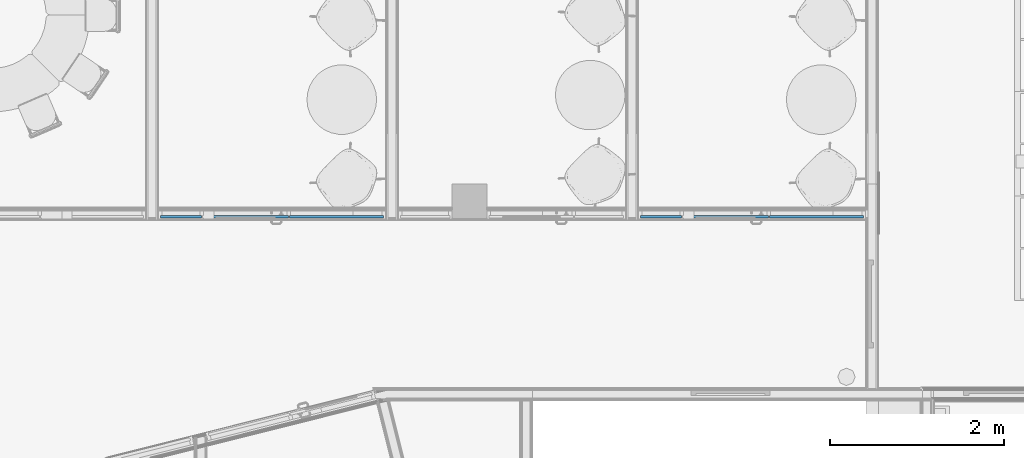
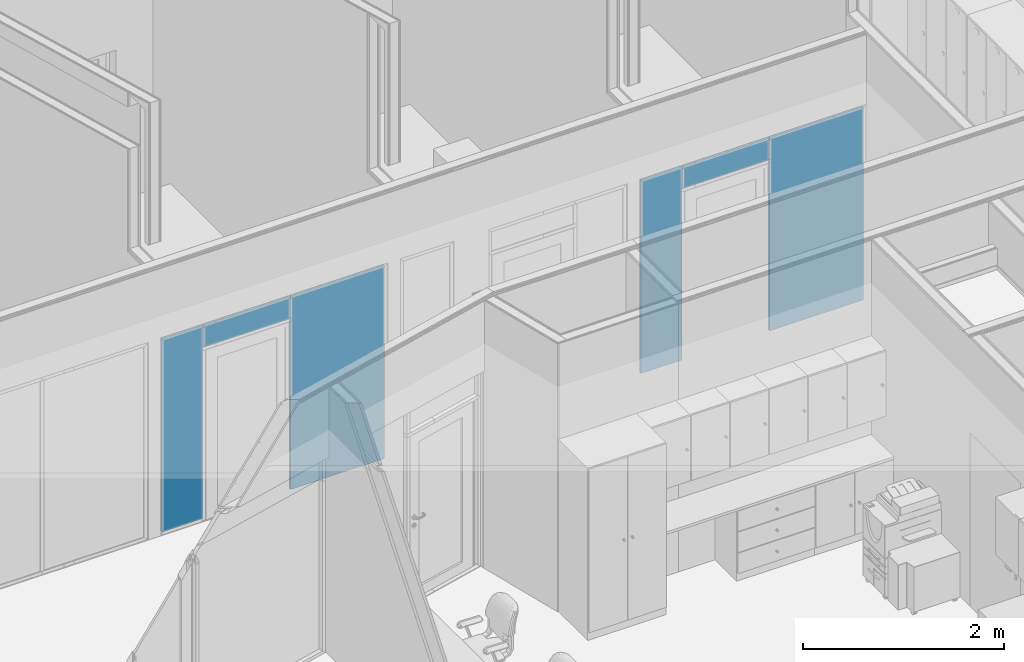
# One storey, part 8 of 153: 6 plates, 2 elements without a shape of their own.
"""IFC2X3 building model written with IfcOpenShell, lengths in millimetres."""

from ifc_helpers import new_model, entity, si_unit, converted_unit, derived_unit, money_unit, direction, frame, origin_with_axes, place, context, subcontext, project, spatial, faceted_brep, source, transform, mapped, material, type_object, element, aggregate, save


model = new_model("IFC2X3")

# Units and contexts
model_context = context("Model", 3, precision=0.01, world=origin_with_axes(), true_north=direction((0.0, 1.0)))
body_context = subcontext(model_context, "Body", "Model", "MODEL_VIEW")
ifc_project = project(units=[si_unit("LENGTHUNIT", "METRE", prefix="MILLI"), si_unit("AREAUNIT", "SQUARE_METRE"), si_unit("VOLUMEUNIT", "CUBIC_METRE"), converted_unit("PLANEANGLEUNIT", "DEGREE", entity("IfcPlaneAngleMeasure", 0.0174532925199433), si_unit("PLANEANGLEUNIT", "RADIAN"), dimensions=[0, 0, 0, 0, 0, 0, 0]), money_unit("EUR"), converted_unit("TIMEUNIT", "Year", entity("IfcTimeMeasure", 31557600.0), si_unit("TIMEUNIT", "SECOND"), dimensions=[0, 0, 1, 0, 0, 0, 0]), si_unit("MASSUNIT", "GRAM", prefix="KILO"), si_unit("THERMODYNAMICTEMPERATUREUNIT", "DEGREE_CELSIUS"), si_unit("LUMINOUSINTENSITYUNIT", "LUMEN"), si_unit("ENERGYUNIT", "JOULE", prefix="MEGA"), derived_unit("THERMALCONDUCTANCEUNIT", [(si_unit("POWERUNIT", "WATT"), 1), (si_unit("LENGTHUNIT", "METRE"), -1), (si_unit("THERMODYNAMICTEMPERATUREUNIT", "KELVIN"), -1)]), derived_unit("SPECIFICHEATCAPACITYUNIT", [(si_unit("ENERGYUNIT", "JOULE"), 1), (si_unit("MASSUNIT", "GRAM", prefix="KILO"), -1), (si_unit("THERMODYNAMICTEMPERATUREUNIT", "KELVIN"), -1)]), derived_unit("MASSDENSITYUNIT", [(si_unit("MASSUNIT", "GRAM", prefix="KILO"), 1), (si_unit("VOLUMEUNIT", "CUBIC_METRE"), -1)])], contexts=[model_context])

# Site, building, storey
site_placement = place(None, frame((0.0, 0.0, 8650.0), z_axis=(0.0, 0.0, 1.0), x_axis=(1.0, 0.0, 0.0)))
site = spatial("IfcSite", under=ifc_project, at=site_placement, Name="43301:001:0844", CompositionType="ELEMENT")
building_placement = place(site_placement, origin_with_axes())
building = spatial("IfcBuilding", under=site, at=building_placement, Name="Kuressaare Ametikooli tuulikute mehaanikute õppekorpus", CompositionType="ELEMENT")
storey_placement = place(building_placement, frame((0.0, 0.0, 4100.0), z_axis=(0.0, 0.0, 1.0), x_axis=(1.0, 0.0, 0.0)))
storey = spatial("IfcBuildingStorey", under=building, at=storey_placement, Name="2.korrus", CompositionType="ELEMENT", Elevation=4100.0)

# Curtain wall, plate
curtain_wall_type = type_object("IfcCurtainWallType", Name="Curtain Wall Type", PredefinedType="NOTDEFINED")
curtain_wall_1_placement = place(storey_placement, frame((123223.4159387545, 23599.06892395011, 7.152564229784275e-05), z_axis=(0.0, 0.0, 1.0), x_axis=(1.0, 0.0, 0.0)))
curtain_wall_1 = element("IfcCurtainWall", 1, at=curtain_wall_1_placement, inside=storey, type_object=curtain_wall_type, Name="PKF-1.2")
ifc_material = material(Name="Klaas")
plate_type_1 = type_object("IfcPlateType", Name="Main Panel 733 x 275 x 30", PredefinedType="NOTDEFINED")
shared_shape_1 = source(origin_with_axes(), body_context, "Body", "Brep", [
    faceted_brep([(1946.957274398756, 2375.000080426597, -15.0), (1599.999999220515, 2375.000080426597, -15.0), (1599.999999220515, 2375.000080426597, 15.0), (1946.957274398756, 2375.000080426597, 15.0), (1946.957274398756, 25.00000084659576, -15.0), (1599.999999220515, 25.00000084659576, -15.0), (866.957273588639, 25.00000084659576, -15.0), (866.957273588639, 2099.9999995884, -15.0), (866.957273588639, 2375.000080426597, -15.0), (866.957273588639, 2375.000080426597, 15.0), (866.957273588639, 2099.9999995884, 15.0), (866.957273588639, 25.00000084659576, 15.0), (1599.999999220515, 25.00000084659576, 15.0), (1946.957274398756, 25.00000084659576, 15.0)], [[[0, 1, 2, 3]], [[0, 4, 5, 6, 7, 8, 1]], [[1, 8, 9, 2]], [[3, 2, 9, 10, 11, 12, 13]], [[4, 0, 3, 13]], [[5, 4, 13, 12]], [[6, 5, 12, 11]], [[7, 6, 11, 10]], [[8, 7, 10, 9]]]),
])
plate_1_placement = place(curtain_wall_1_placement, frame((1148.664644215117, 0.0, 1328.571392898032), z_axis=(0.0, 0.0, 1.0), x_axis=(-1.0, 0.0, 0.0)))
plate_1 = element("IfcPlate", 2, at=plate_1_placement, type_object=plate_type_1, material=ifc_material, context=body_context, shape_type="MappedRepresentation", body=[
    mapped(shared_shape_1, transform((1389.969483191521, 0.0, -1328.571464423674), x_axis=(-1.0, 0.0, 0.0), y_axis=(0.0, 0.0, 1.0), z_axis=(0.0, 1.0, 0.0))),
])

curtain_wall_2_placement = place(storey_placement, frame((128158.0683354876, 23599.06892395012, 7.152564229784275e-05), z_axis=(0.0, 0.0, 1.0), x_axis=(1.0, 0.0, 0.0)))
curtain_wall_2 = element("IfcCurtainWall", 3, at=curtain_wall_2_placement, inside=storey, type_object=curtain_wall_type, Name="PKF1.5")
plate_2_placement = place(curtain_wall_2_placement, frame((1728.01224748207, 0.0, 1328.571392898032), z_axis=(0.0, 0.0, 1.0), x_axis=(-1.0, 0.0, 0.0)))
plate_2 = element("IfcPlate", 4, at=plate_2_placement, type_object=plate_type_1, material=ifc_material, context=body_context, shape_type="MappedRepresentation", body=[
    mapped(shared_shape_1, transform((1389.969483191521, 0.0, -1328.571464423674), x_axis=(-1.0, 0.0, 0.0), y_axis=(0.0, 0.0, 1.0), z_axis=(0.0, 1.0, 0.0))),
])

# Plate
plate_type_2 = type_object("IfcPlateType", Name="Main Panel 470 x 2350 x 30", PredefinedType="NOTDEFINED")
shared_shape_2 = source(origin_with_axes(), body_context, "Body", "Brep", [
    faceted_brep([(1456.957240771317, 2375.000080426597, -15.0), (986.9572248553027, 2375.000080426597, -15.0), (986.9572248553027, 2375.000080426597, 15.0), (1456.957240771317, 2375.000080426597, 15.0), (1456.957240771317, 2099.9999995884, -15.0), (1456.957240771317, 25.00000084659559, -15.0), (986.9572248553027, 25.00000084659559, -15.0), (986.9572248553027, 25.00000084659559, 15.0), (1456.957240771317, 25.00000084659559, 15.0), (1456.957240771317, 2099.9999995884, 15.0)], [[[0, 1, 2, 3]], [[0, 4, 5, 6, 1]], [[1, 6, 7, 2]], [[3, 2, 7, 8, 9]], [[4, 0, 3, 9]], [[5, 4, 9, 8]], [[6, 5, 8, 7]]]),
])
plate_3_placement = place(curtain_wall_1_placement, frame((-579.3476032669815, 0.0, 1379.999962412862), z_axis=(0.0, 0.0, 1.0), x_axis=(-1.0, 0.0, 0.0)))
plate_3 = element("IfcPlate", 5, at=plate_3_placement, type_object=plate_type_2, material=ifc_material, context=body_context, shape_type="MappedRepresentation", body=[
    mapped(shared_shape_2, transform((1261.957235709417, 0.0, -1380.000033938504), x_axis=(-1.0, 0.0, 0.0), y_axis=(0.0, 0.0, 1.0), z_axis=(0.0, 1.0, 0.0))),
])

plate_4_placement = place(curtain_wall_2_placement, frame((0.0, 0.0, 1379.999962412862), z_axis=(0.0, 0.0, 1.0), x_axis=(-1.0, 0.0, 0.0)))
plate_4 = element("IfcPlate", 6, at=plate_4_placement, type_object=plate_type_2, material=ifc_material, context=body_context, shape_type="MappedRepresentation", body=[
    mapped(shared_shape_2, transform((1261.957235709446, 0.0, -1380.000033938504), x_axis=(-1.0, 0.0, 0.0), y_axis=(0.0, 0.0, 1.0), z_axis=(0.0, 1.0, 0.0))),
])

plate_type_3 = type_object("IfcPlateType", Name="Main Panel 133 x 270 x 30", PredefinedType="NOTDEFINED")
shared_shape_3 = source(origin_with_axes(), body_context, "Body", "Brep", [
    faceted_brep([(2456.957273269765, 2375.00007497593, -15.0), (1599.999993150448, 2375.00007497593, -15.0), (1599.999993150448, 2375.00007497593, 15.0), (2456.957273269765, 2375.00007497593, 15.0), (2456.957273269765, 2105.000007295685, -15.0), (1599.999993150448, 2105.000007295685, -15.0), (1466.957243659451, 2105.000007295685, -15.0), (1466.957243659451, 2375.00007497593, -15.0), (1466.957243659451, 2375.00007497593, 15.0), (1466.957243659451, 2105.000007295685, 15.0), (1599.999993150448, 2105.000007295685, 15.0), (2456.957273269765, 2105.000007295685, 15.0)], [[[0, 1, 2, 3]], [[0, 4, 5, 6, 7, 1]], [[1, 7, 8, 2]], [[3, 2, 8, 9, 10, 11]], [[4, 0, 3, 11]], [[5, 4, 11, 10]], [[6, 5, 10, 9]], [[7, 6, 9, 8]]]),
])
plate_5_placement = place(curtain_wall_1_placement, frame((0.0, 0.0, 2249.999972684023), z_axis=(0.0, 0.0, 1.0), x_axis=(-1.0, 0.0, 0.0)))
plate_5 = element("IfcPlate", 7, at=plate_5_placement, type_object=plate_type_3, material=ifc_material, context=body_context, shape_type="MappedRepresentation", body=[
    mapped(shared_shape_3, transform((1841.304838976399, 0.0, -2250.000044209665), x_axis=(-1.0, 0.0, 0.0), y_axis=(0.0, 0.0, 1.0), z_axis=(0.0, 1.0, 0.0))),
])

aggregate(curtain_wall_1, [plate_1, plate_5, plate_3])

plate_6_placement = place(curtain_wall_2_placement, frame((579.3476032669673, 0.0, 2249.999972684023), z_axis=(0.0, 0.0, 1.0), x_axis=(-1.0, 0.0, 0.0)))
plate_6 = element("IfcPlate", 8, at=plate_6_placement, type_object=plate_type_3, material=ifc_material, context=body_context, shape_type="MappedRepresentation", body=[
    mapped(shared_shape_3, transform((1841.304838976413, 0.0, -2250.000044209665), x_axis=(-1.0, 0.0, 0.0), y_axis=(0.0, 0.0, 1.0), z_axis=(0.0, 1.0, 0.0))),
])

aggregate(curtain_wall_2, [plate_4, plate_6, plate_2])

save(model, "model.ifc")
